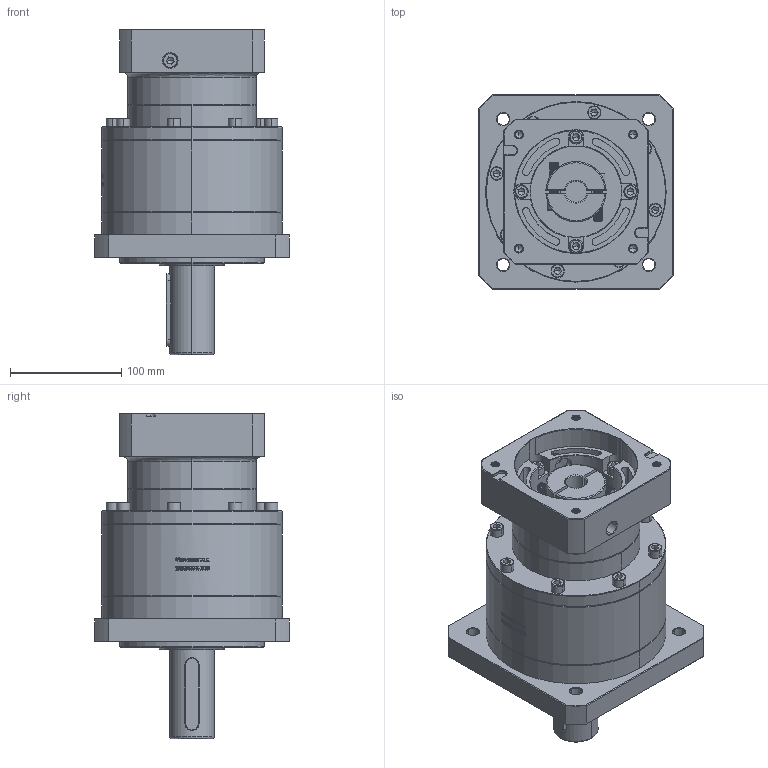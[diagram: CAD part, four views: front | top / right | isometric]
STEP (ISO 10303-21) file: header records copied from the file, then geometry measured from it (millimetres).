
FILE_DESCRIPTION (( 'STEP AP214' ), '1' );
FILE_NAME ('ZF160-D40-L2-19-110-145-M8.step', '2023-03-22T03:55:45', ( '' ), ( '' ), 'SwSTEP 2.0', 'SolidWorks 2016', '' );
FILE_SCHEMA (( 'AUTOMOTIVE_DESIGN' ));
Length unit declared in the file: millimetre
Products named in the file (1): ZF160-D40-L2-19-110-145-M8
Bounding box: 175 x 175 x 292.2 mm (x, y, z)
Volume: 3587147.9 mm3; surface area: 282182.1 mm2
Topology: 6 solids, 6 shells, 1914 faces, 4880 edges, 3086 vertices
Faces by surface type: plane 772, cylinder 511, cone 360, bspline 214, torus 57
Entity records: 102780 total; most frequent: CARTESIAN_POINT 37763, ORIENTED_EDGE 9652, DIRECTION 8468, EDGE_CURVE 4826, VERTEX_POINT 3086, AXIS2_PLACEMENT_3D 2946, LINE 2576, VECTOR 2576
